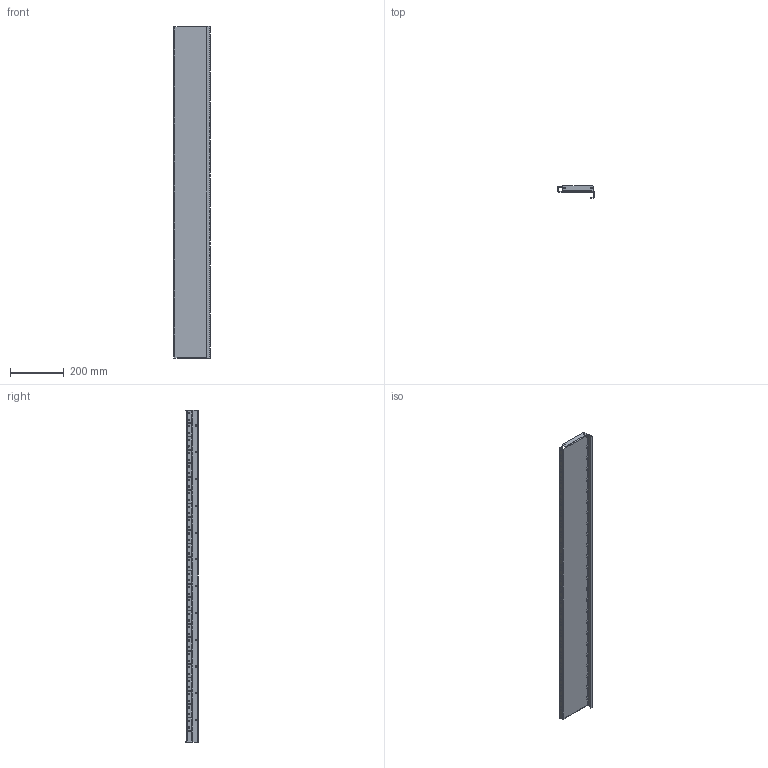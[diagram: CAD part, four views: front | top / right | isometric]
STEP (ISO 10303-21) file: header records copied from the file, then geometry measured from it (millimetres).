
FILE_DESCRIPTION(('CAx-IF Rec.Pracs.---Model Styling and Organization---1.2---2011-12-15','CAx-IF Rec.Pracs.---Geometric and Assembly Validation Properties---4.1---2014-06-16','CAx-IF Rec.Pracs.---PMI Polyline Presentation---2.0---2013-05-24'),'2;1');
FILE_NAME('R5M2ACRR24M12.stp','2021-05-05T11:58:50+03:00',(''),(''),'STEP Interface 4.4 by CT CoreTechnologie','3D_Evolution4.4 by CT CoreTechnologie','');
FILE_SCHEMA(('AUTOMOTIVE_DESIGN { 1 0 10303 214 1 1 1 1 }'));
Length unit declared in the file: millimetre
Products named in the file (2): R5M2ACRR24M12; RB.1401.00.00.0_-00
Assembly tree (1 placements, depth 2):
  R5M2ACRR24M12
    RB.1401.00.00.0_-00
Bounding box: 135 x 45 x 1240 mm (x, y, z)
Surface area: 495879.9 mm2 (no closed solid volume)
Topology: 0 solids, 1 shells, 826 faces, 2892 edges, 1922 vertices
Faces by surface type: plane 540, cylinder 286
Entity records: 31605 total; most frequent: ORIENTED_EDGE 5784, CARTESIAN_POINT 5642, DIRECTION 5120, EDGE_CURVE 2892, VECTOR 2320, LINE 2320, VERTEX_POINT 1922, AXIS2_PLACEMENT_3D 1400
